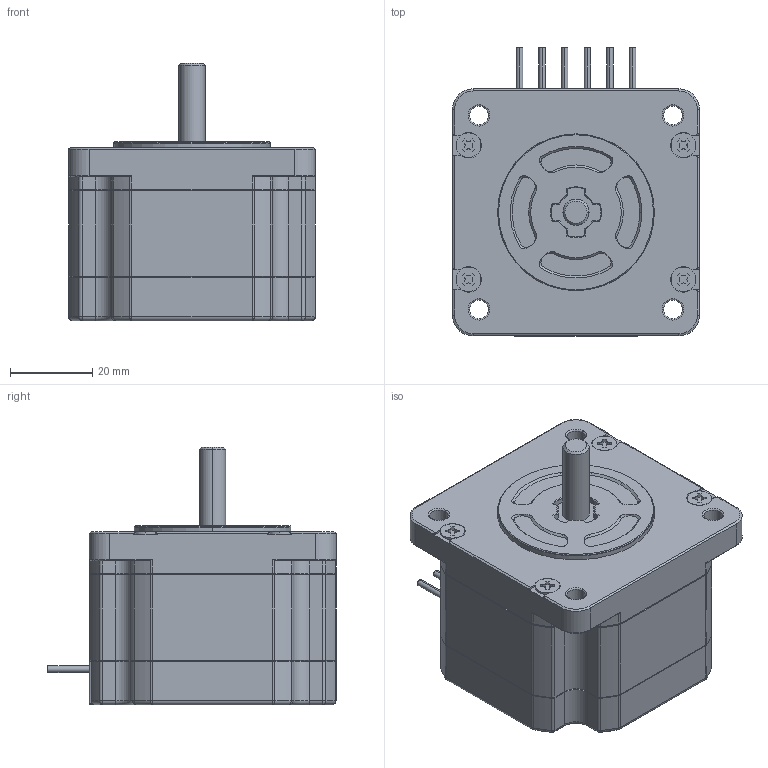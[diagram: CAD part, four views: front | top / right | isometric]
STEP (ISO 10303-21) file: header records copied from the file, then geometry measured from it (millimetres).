
FILE_DESCRIPTION (( 'STEP AP203' ), '1' );
FILE_NAME ('SH1601-0440.STEP', '2015-05-27T05:16:35', ( '' ), ( '' ), 'SwSTEP 2.0', 'SolidWorks 2014', '' );
FILE_SCHEMA (( 'CONFIG_CONTROL_DESIGN' ));
Length unit declared in the file: millimetre
Products named in the file (1): SH1601-0440
Bounding box: 60 x 70 x 62.6 mm (x, y, z)
Volume: 135804.5 mm3; surface area: 17861.2 mm2
Topology: 1 solids, 1 shells, 615 faces, 1533 edges, 942 vertices
Faces by surface type: plane 224, cylinder 202, cone 112, bspline 33, torus 30, sphere 14
Entity records: 19350 total; most frequent: CARTESIAN_POINT 4787, ORIENTED_EDGE 3054, DIRECTION 3051, EDGE_CURVE 1527, AXIS2_PLACEMENT_3D 1151, VERTEX_POINT 942, LINE 749, VECTOR 749
